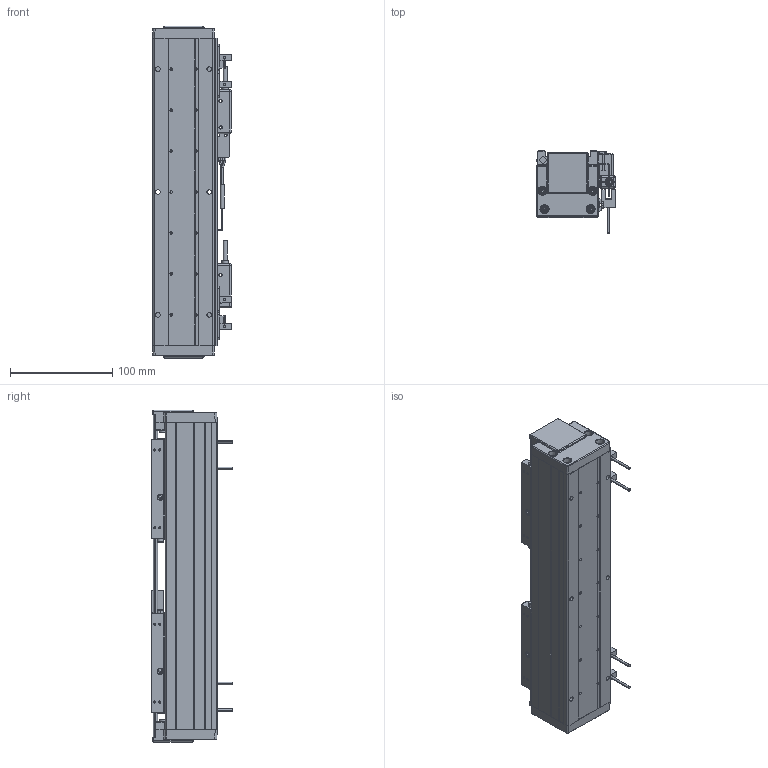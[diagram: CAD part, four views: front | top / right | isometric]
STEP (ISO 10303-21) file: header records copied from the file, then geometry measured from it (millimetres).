
FILE_DESCRIPTION (( 'STEP AP203' ), '1' );
FILE_NAME ('DA-A60-2-B1-T60-C010-0.2 眻盄萇儂.STEP', '2025-08-13T01:00:29', ( '' ), ( '' ), 'SwSTEP 2.0', 'SolidWorks 2019', '' );
FILE_SCHEMA (( 'CONFIG_CONTROL_DESIGN' ));
Length unit declared in the file: millimetre
Products named in the file (27): 葩璃 PM-T45^DA-A60-2-B1-T60-C010-0.2-N; ｸｴｼ DA-A60-GYP-DMT-00 ｹ箏邵ﾐﾓｦﾆｬ^DA-A60-2-B1-T60-C010-0.2-N(ﾄｬﾈﾏ); DA60-YT-B1-HT-B-01 珨极趙賑雄怢啣-1; ｸｴｼ DA60-GYP-ZJ-01 ﾖﾐｼ荵箏邵ﾐﾓｦﾆｬ^DA-A60-2-B1-T60-C010-0.2-N(ﾄｬﾈﾏ); 复件 DA60-B1-GT-00 滑块钢轨^DA60-YT-B1-HT-B-01 一体化滑动台板; DA-A60-2-B1-T60-C010-0.2 眻盄萇儂; 葩璃 DA60-HK-DP-01 結え^AU60-V 幗紩賑怢; 葩璃 DA60-DG-H-N-00 傷裔^DA-A60-2-B1-T60-C010-0.2-N; AU60-L 菁釱絳寢; 葩璃 PM-Y65^DA-A60-2-B1-T60-C010-0.2-N; 葩璃 AKM01-W030-TRL^DA-A60-2-B1-T60-C010-0.2-N; ｸｴｼ BAKM01-W030-C1-TP-0.2 ﾖｱﾏﾟｵ扈巐ｯﾗﾓ^DA-A60-2-B1-T60-C010-0.2-N; AU60-V 幗紩賑怢-1; 复件 DA60-HC-XJ-01 中间缓冲橡胶^DA-A60-2-B1-T60-C010-0.2-N; 葩璃 XD-U-02  棠掑喜^DA-A60-2-B1-T60-C010-0.2-N; DA60-YT-B1-HT-B-01 珨极趙賑雄怢啣; 葩璃 DA60-DMT-DTJ-00 黍杅芛盓殤^DA-A60-2-B1-T60-C010-0.2-N; ｸｴｼ DA60-DMT-DTJ-ZJ-00 ﾖﾐｼ荼ﾁﾊﾍｷﾖｧｼﾜ^DA-A60-2-B1-T60-C010-0.2-N; DA60-B1-HT-B-03 賑雄怢啣; IU-AU60-L-00 菁釱(300); 葩璃 DMT-010 1米m 0.2M^DA-A60-2-B1-T60-C010-0.2-N; 复件 DA60-GT-T-00 底座钢轨^AU60-L 底座导轨; DA60-T-002-00  裔啣; 葩璃 鞠褒情蹟譫 M3^DA-A60-2-B1-T60-C010-0.2-N(GB_FASTENER_NUT_STNAB M3-C); 复件 纯铜油杯 6x6mm^AU60-V 滚珠滑台; AU60-V 幗紩賑怢; 葩璃 DA60-XJ-00 砎蝶結輸^DA-A60-2-B1-T60-C010-0.2-N
Assembly tree (51 placements, depth 4):
  DA-A60-2-B1-T60-C010-0.2 眻盄萇儂
    AU60-L 菁釱絳寢
      IU-AU60-L-00 菁釱(300)
      复件 DA60-GT-T-00 底座钢轨^AU60-L 底座导轨  x2
    AU60-V 幗紩賑怢
      DA60-YT-B1-HT-B-01 珨极趙賑雄怢啣
        DA60-B1-HT-B-03 賑雄怢啣
        复件 DA60-B1-GT-00 滑块钢轨^DA60-YT-B1-HT-B-01 一体化滑动台板  x2
      葩璃 DA60-HK-DP-01 結え^AU60-V 幗紩賑怢  x2
      复件 纯铜油杯 6x6mm^AU60-V 滚珠滑台
    AU60-V 幗紩賑怢-1
      DA60-YT-B1-HT-B-01 珨极趙賑雄怢啣-1
        DA60-B1-HT-B-03 賑雄怢啣
        复件 DA60-B1-GT-00 滑块钢轨^DA60-YT-B1-HT-B-01 一体化滑动台板  x2
      葩璃 DA60-HK-DP-01 結え^AU60-V 幗紩賑怢  x2
      复件 纯铜油杯 6x6mm^AU60-V 滚珠滑台
    ｸｴｼ DA60-DMT-DTJ-ZJ-00 ﾖﾐｼ荼ﾁﾊﾍｷﾖｧｼﾜ^DA-A60-2-B1-T60-C010-0.2-N
    葩璃 PM-Y65^DA-A60-2-B1-T60-C010-0.2-N
    复件 DA60-HC-XJ-01 中间缓冲橡胶^DA-A60-2-B1-T60-C010-0.2-N  x2
    ｸｴｼ DA60-GYP-ZJ-01 ﾖﾐｼ荵箏邵ﾐﾓｦﾆｬ^DA-A60-2-B1-T60-C010-0.2-N(ﾄｬﾈﾏ)
    ｸｴｼ DA-A60-GYP-DMT-00 ｹ箏邵ﾐﾓｦﾆｬ^DA-A60-2-B1-T60-C010-0.2-N(ﾄｬﾈﾏ)  x2
    葩璃 DA60-DMT-DTJ-00 黍杅芛盓殤^DA-A60-2-B1-T60-C010-0.2-N
    葩璃 DMT-010 1米m 0.2M^DA-A60-2-B1-T60-C010-0.2-N  x2
    ｸｴｼ BAKM01-W030-C1-TP-0.2 ﾖｱﾏﾟｵ扈巐ｯﾗﾓ^DA-A60-2-B1-T60-C010-0.2-N  x2
    葩璃 DA60-XJ-00 砎蝶結輸^DA-A60-2-B1-T60-C010-0.2-N  x2
    葩璃 DA60-DG-H-N-00 傷裔^DA-A60-2-B1-T60-C010-0.2-N  x2
    DA60-T-002-00  裔啣
    葩璃 AKM01-W030-TRL^DA-A60-2-B1-T60-C010-0.2-N
    葩璃 PM-T45^DA-A60-2-B1-T60-C010-0.2-N  x4
    葩璃 XD-U-02  棠掑喜^DA-A60-2-B1-T60-C010-0.2-N
    葩璃 鞠褒情蹟譫 M3^DA-A60-2-B1-T60-C010-0.2-N(GB_FASTENER_NUT_STNAB M3-C)  x8
Bounding box: 76.95 x 80 x 324 mm (x, y, z)
Volume: 912768.6 mm3; surface area: 342011.8 mm2
Topology: 57 solids, 61 shells, 3489 faces, 8729 edges, 5290 vertices
Faces by surface type: plane 1344, cylinder 1197, bspline 592, cone 342, torus 12, sphere 2
Entity records: 72707 total; most frequent: CARTESIAN_POINT 22593, ORIENTED_EDGE 10012, DIRECTION 9249, EDGE_CURVE 5006, AXIS2_PLACEMENT_3D 3212, VERTEX_POINT 3129, VECTOR 2825, LINE 2825
